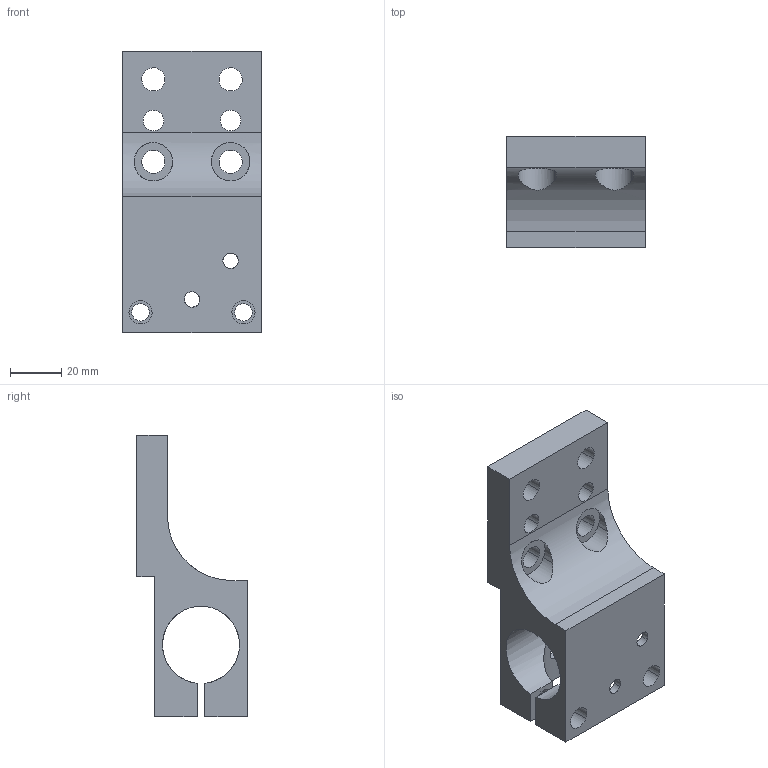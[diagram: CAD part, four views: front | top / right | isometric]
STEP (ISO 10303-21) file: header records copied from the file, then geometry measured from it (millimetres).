
FILE_DESCRIPTION(('CATIA V5 STEP Exchange'),'2;1');
FILE_NAME('\\Tcn-server2\产品部\2-PDD Database\6-Gripping\500-Other product\2-Euro gripper system\Euro Gripper to customer\Euro gripper-3D model for design-V2\EGT182_SPANNERANBINDUNG_50-63-V.stp','2013-04-08T08:06:31+00:00',('none'),('none'),'CATIA Version 5 Release 21 GA (IN-10)','CATIA V5 STEP AP203','none');
FILE_SCHEMA(('CONFIG_CONTROL_DESIGN'));
Length unit declared in the file: millimetre
Products named in the file (1): EGT182
Bounding box: 54 x 43 x 109.5 mm (x, y, z)
Volume: 80823.5 mm3; surface area: 29216.1 mm2
Topology: 1 solids, 1 shells, 59 faces, 167 edges, 112 vertices
Faces by surface type: cylinder 41, plane 18
Entity records: 2116 total; most frequent: CARTESIAN_POINT 640, ORIENTED_EDGE 334, DIRECTION 205, EDGE_CURVE 167, VERTEX_POINT 112, AXIS2_PLACEMENT_3D 93, EDGE_LOOP 89, VECTOR 83
